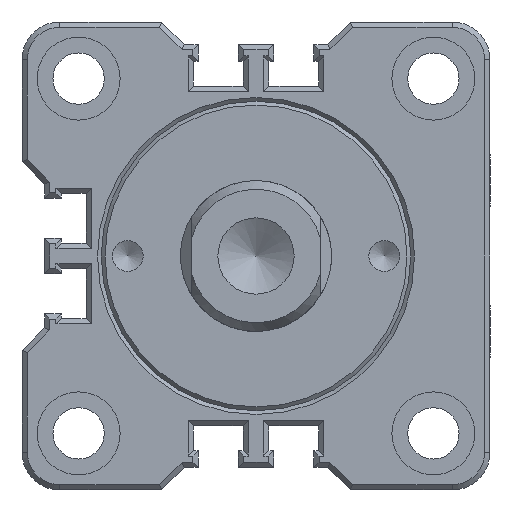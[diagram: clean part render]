
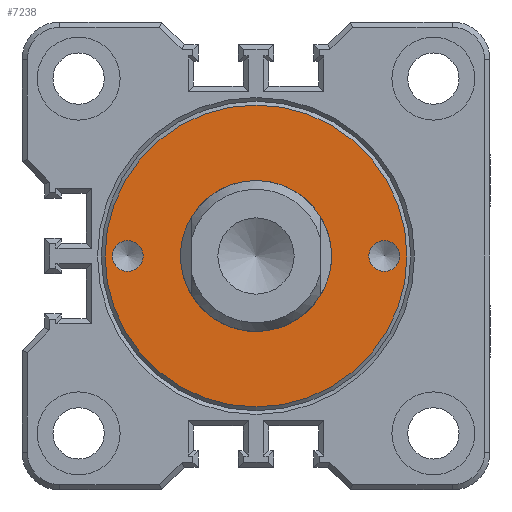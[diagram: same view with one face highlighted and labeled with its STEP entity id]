
A CAD part, front view. The second image highlights one B-rep face of the part: STEP entity #7238.
In plain terms, the highlighted planar face has unit normal (0, -1, 0).
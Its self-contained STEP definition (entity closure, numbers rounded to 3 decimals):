
#2025=ORIENTED_EDGE('',*,*,#3134,.T.);
#2026=ORIENTED_EDGE('',*,*,#3133,.F.);
#2027=ORIENTED_EDGE('',*,*,#3135,.T.);
#2028=ORIENTED_EDGE('',*,*,#3132,.T.);
#3132=EDGE_CURVE('',#3699,#3699,#3813,.T.);
#3133=EDGE_CURVE('',#3700,#3700,#3814,.T.);
#3134=EDGE_CURVE('',#3701,#3701,#3815,.T.);
#3135=EDGE_CURVE('',#3702,#3702,#3816,.T.);
#3699=VERTEX_POINT('',#10899);
#3700=VERTEX_POINT('',#10902);
#3701=VERTEX_POINT('',#10905);
#3702=VERTEX_POINT('',#10907);
#3813=CIRCLE('',#7633,20.);
#3814=CIRCLE('',#7635,10.);
#3815=CIRCLE('',#7637,2.05);
#3816=CIRCLE('',#7638,2.05);
#4055=EDGE_LOOP('',(#2025));
#4056=EDGE_LOOP('',(#2026));
#4057=EDGE_LOOP('',(#2027));
#4058=EDGE_LOOP('',(#2028));
#4441=FACE_BOUND('',#4055,.T.);
#4442=FACE_BOUND('',#4056,.T.);
#4443=FACE_BOUND('',#4057,.T.);
#4444=FACE_BOUND('',#4058,.T.);
#4682=PLANE('',#7636);
#7238=ADVANCED_FACE('',(#4441,#4442,#4443,#4444),#4682,.T.);
#7633=AXIS2_PLACEMENT_3D('',#10898,#8630,#8631);
#7635=AXIS2_PLACEMENT_3D('',#10901,#8634,#8635);
#7636=AXIS2_PLACEMENT_3D('',#10903,#8636,#8637);
#7637=AXIS2_PLACEMENT_3D('',#10904,#8638,#8639);
#7638=AXIS2_PLACEMENT_3D('',#10906,#8640,#8641);
#8630=DIRECTION('',(0.,-1.,0.));
#8631=DIRECTION('',(0.,0.,-1.));
#8634=DIRECTION('',(0.,-1.,0.));
#8635=DIRECTION('',(1.,0.,0.));
#8636=DIRECTION('',(0.,-1.,0.));
#8637=DIRECTION('',(1.,0.,0.));
#8638=DIRECTION('',(0.,1.,0.));
#8639=DIRECTION('',(0.,0.,-1.));
#8640=DIRECTION('',(0.,1.,0.));
#8641=DIRECTION('',(0.,0.,-1.));
#10898=CARTESIAN_POINT('',(0.,0.,0.));
#10899=CARTESIAN_POINT('',(0.,0.,-20.));
#10901=CARTESIAN_POINT('',(0.,0.,0.));
#10902=CARTESIAN_POINT('',(10.,0.,0.));
#10903=CARTESIAN_POINT('',(-26.,0.,26.));
#10904=CARTESIAN_POINT('',(17.,0.,0.));
#10905=CARTESIAN_POINT('',(17.,0.,-2.05));
#10906=CARTESIAN_POINT('',(-17.,0.,0.));
#10907=CARTESIAN_POINT('',(-17.,0.,-2.05));
